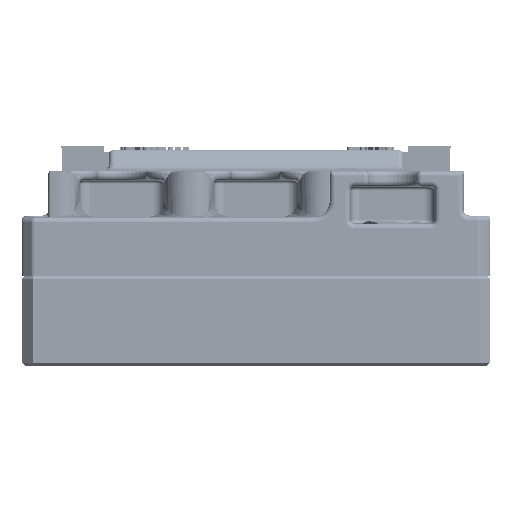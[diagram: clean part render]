
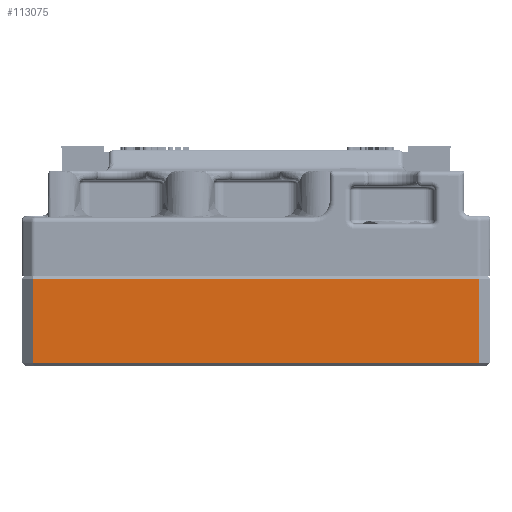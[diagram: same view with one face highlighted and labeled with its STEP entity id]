
A CAD part, left-side view. The second image highlights one B-rep face of the part: STEP entity #113075.
In plain terms, the highlighted planar face has unit normal (-1, 0, 0).
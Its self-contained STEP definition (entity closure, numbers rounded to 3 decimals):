
#10047=VECTOR('',#130101,1.);
#10144=VECTOR('',#130458,1.);
#10148=VECTOR('',#130464,1.);
#10149=VECTOR('',#130466,1.);
#21331=LINE('',#162298,#10047);
#21428=LINE('',#162652,#10144);
#21432=LINE('',#162659,#10148);
#21433=LINE('',#162661,#10149);
#31501=PLANE('',#120038);
#35892=VERTEX_POINT('',#162299);
#35893=VERTEX_POINT('',#162300);
#36002=VERTEX_POINT('',#162649);
#36003=VERTEX_POINT('',#162653);
#49845=EDGE_CURVE('',#35892,#35893,#21331,.T.);
#50006=EDGE_CURVE('',#36002,#36003,#21428,.T.);
#50010=EDGE_CURVE('',#36003,#35892,#21432,.T.);
#50011=EDGE_CURVE('',#35893,#36002,#21433,.T.);
#69265=ORIENTED_EDGE('',*,*,#49845,.F.);
#69266=ORIENTED_EDGE('',*,*,#50010,.F.);
#69267=ORIENTED_EDGE('',*,*,#50006,.F.);
#69268=ORIENTED_EDGE('',*,*,#50011,.F.);
#99104=EDGE_LOOP('',(#69265,#69266,#69267,#69268));
#106194=FACE_BOUND('',#99104,.T.);
#113075=ADVANCED_FACE('',(#106194),#31501,.T.);
#120038=AXIS2_PLACEMENT_3D('',#162660,#130465,$);
#130101=DIRECTION('',(0.,1.,0.));
#130458=DIRECTION('',(0.,-1.,0.));
#130464=DIRECTION('',(0.,0.,-1.));
#130465=DIRECTION('',(-1.,0.,0.));
#130466=DIRECTION('',(0.,0.,1.));
#162298=CARTESIAN_POINT('',(-75.,0.,0.5));
#162299=CARTESIAN_POINT('',(-75.,-42.5,0.5));
#162300=CARTESIAN_POINT('',(-75.,42.5,0.5));
#162649=CARTESIAN_POINT('',(-75.,42.5,16.5));
#162652=CARTESIAN_POINT('',(-75.,0.,16.5));
#162653=CARTESIAN_POINT('',(-75.,-42.5,16.5));
#162659=CARTESIAN_POINT('',(-75.,-42.5,0.));
#162660=CARTESIAN_POINT('',(-75.,0.,0.));
#162661=CARTESIAN_POINT('',(-75.,42.5,0.));
